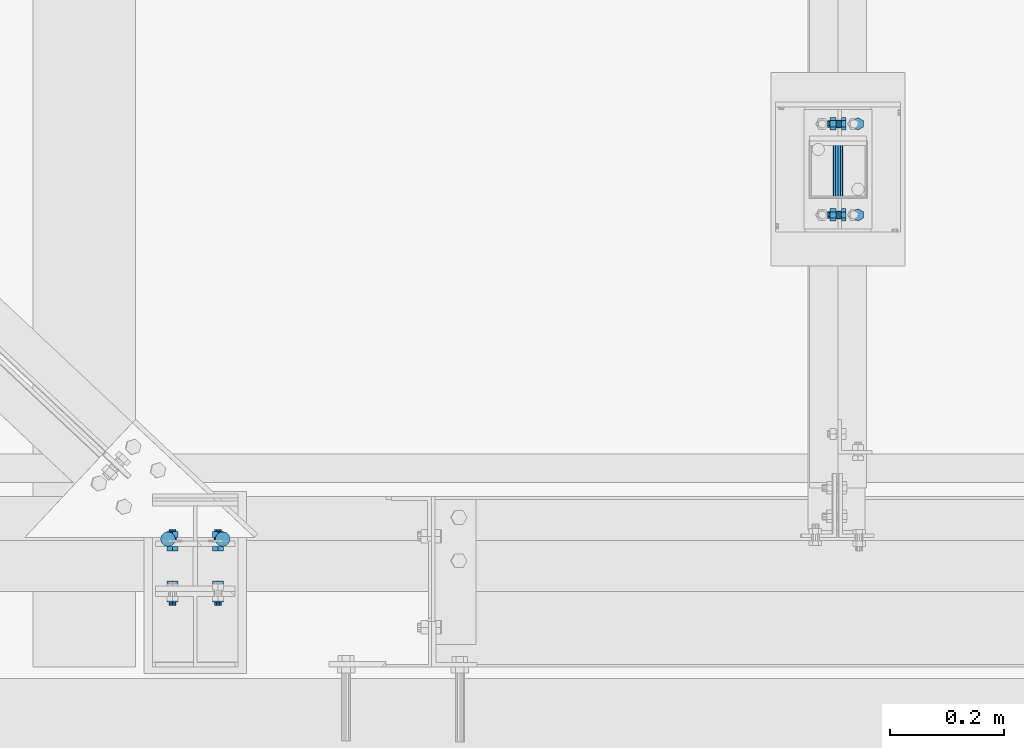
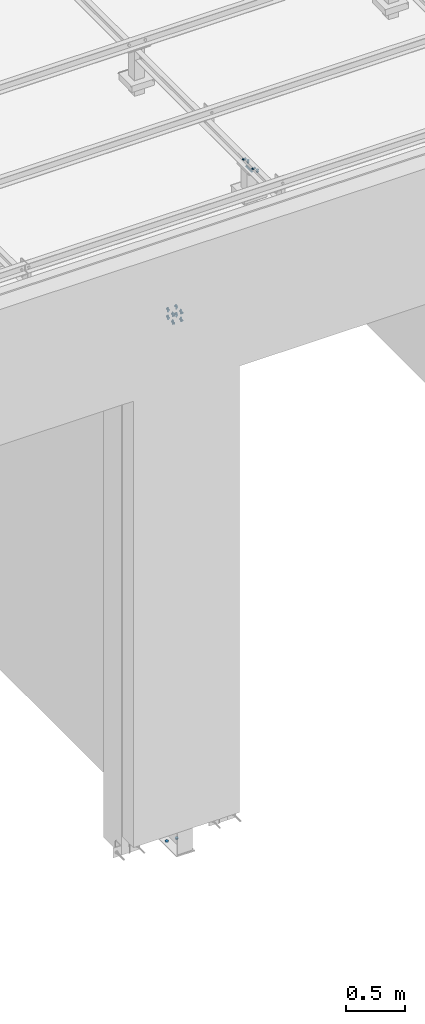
# One storey, part 310 of 3134: 6 mechanical fasteners, 5 elements without a shape of their own.
"""IFC2X3 building model written with IfcOpenShell, lengths in millimetres."""

from ifc_helpers import new_model, si_unit, frame, origin_with_axes, place, context, subcontext, project, spatial, faceted_brep, source, transform, mapped, material, type_object, element, aggregate, save


model = new_model("IFC2X3")

# Units and contexts
model_context = context("Model", 3, precision=1e-05, world=origin_with_axes())
body_context = subcontext(model_context, "Body", "Model", "MODEL_VIEW")
ifc_project = project(units=[si_unit("LENGTHUNIT", "METRE", prefix="MILLI"), si_unit("AREAUNIT", "SQUARE_METRE"), si_unit("VOLUMEUNIT", "CUBIC_METRE"), si_unit("MASSUNIT", "GRAM", prefix="KILO"), si_unit("TIMEUNIT", "SECOND"), si_unit("PLANEANGLEUNIT", "RADIAN"), si_unit("SOLIDANGLEUNIT", "STERADIAN"), si_unit("THERMODYNAMICTEMPERATUREUNIT", "DEGREE_CELSIUS"), si_unit("LUMINOUSINTENSITYUNIT", "LUMEN")], contexts=[model_context])

# Site, building, storey
site_placement = place(None, origin_with_axes())
site = spatial("IfcSite", under=ifc_project, at=site_placement, CompositionType="ELEMENT")
building_placement = place(site_placement, origin_with_axes())
building = spatial("IfcBuilding", under=site, at=building_placement, Name="Undefined", CompositionType="ELEMENT")
storey_placement = place(building_placement, origin_with_axes())
storey = spatial("IfcBuildingStorey", under=building, at=storey_placement, Name="Undefined", CompositionType="ELEMENT", Elevation=0.0)

# Assembly, mechanical fastener
assembly_1_placement = place(storey_placement, origin_with_axes())
assembly_1 = element("IfcElementAssembly", 1, at=assembly_1_placement, inside=storey, AssemblyPlace="NOTDEFINED", PredefinedType="RIGID_FRAME")
ifc_material = material(Name="8.8")
mechanical_fastener_type = type_object("IfcMechanicalFastenerType", Name="Bolt assembly")
shared_shape_1 = source(origin_with_axes(), body_context, "Body", "Brep", [
    faceted_brep([(10.9696551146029, -14.0, 0.0), (5.48482755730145, -14.0, 9.5), (-5.48482755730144, -14.0, 9.5), (-10.9696551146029, -14.0, 1.34339530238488e-15), (-5.48482755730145, -14.0, -9.5), (5.48482755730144, -14.0, -9.50000000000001), (5.48482755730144, -6.0, -9.50000000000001), (-5.48482755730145, -6.0, -9.5), (-10.9696551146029, -6.0, 1.34339530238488e-15), (-5.48482755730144, -6.0, 9.5), (5.48482755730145, -6.0, 9.5), (10.9696551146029, -6.0, 0.0), (6.0, -6.0, 0.0), (5.19615242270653, -6.0, 3.00000000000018), (2.99999999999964, -6.0, 5.19615242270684), (-6.21801588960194e-13, -6.0, 6.0), (-3.00000000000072, -6.0, 5.19615242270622), (-5.19615242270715, -6.0, 2.9999999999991), (-6.0, -6.0, -1.24360317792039e-12), (-5.19615242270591, -6.0, -3.00000000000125), (-2.99999999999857, -6.0, -5.19615242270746), (1.85874342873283e-12, -6.0, -6.0), (3.00000000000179, -6.0, -5.1961524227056), (5.19615242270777, -6.0, -2.99999999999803), (5.19615242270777, 24.0, -2.99999999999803), (3.00000000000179, 24.0, -5.1961524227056), (1.85874342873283e-12, 24.0, -6.0), (-2.99999999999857, 24.0, -5.19615242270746), (-5.19615242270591, 24.0, -3.00000000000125), (-6.0, 24.0, -1.24360317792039e-12), (-5.19615242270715, 24.0, 2.9999999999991), (-3.00000000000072, 24.0, 5.19615242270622), (-6.21801588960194e-13, 24.0, 6.0), (2.99999999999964, 24.0, 5.19615242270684), (5.19615242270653, 24.0, 3.00000000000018), (6.0, 24.0, 0.0), (10.9696551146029, 6.00000000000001, 0.0), (5.48482755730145, 6.00000000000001, 9.5), (-5.48482755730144, 6.00000000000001, 9.5), (-10.9696551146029, 6.00000000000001, 1.34339530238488e-15), (-5.48482755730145, 6.00000000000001, -9.5), (5.48482755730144, 6.00000000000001, -9.50000000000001), (5.48482755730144, 16.0, -9.50000000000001), (-5.48482755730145, 16.0, -9.5), (-10.9696551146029, 16.0, 1.34339530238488e-15), (-5.48482755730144, 16.0, 9.5), (5.48482755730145, 16.0, 9.5), (10.9696551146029, 16.0, 0.0)], [[[0, 1, 2, 3, 4, 5]], [[6, 7, 8, 9, 10, 11]], [[0, 11, 10, 1]], [[1, 10, 9, 2]], [[2, 9, 8, 3]], [[3, 8, 7, 4]], [[4, 7, 6, 5]], [[5, 6, 11, 0]], [[12, 13, 14, 15, 16, 17, 18, 19, 20, 21, 22, 23]], [[24, 25, 26, 27, 28, 29, 30, 31, 32, 33, 34, 35]], [[12, 35, 34, 13]], [[13, 34, 33, 14]], [[14, 33, 32, 15]], [[15, 32, 31, 16]], [[16, 31, 30, 17]], [[17, 30, 29, 18]], [[18, 29, 28, 19]], [[19, 28, 27, 20]], [[20, 27, 26, 21]], [[21, 26, 25, 22]], [[22, 25, 24, 23]], [[23, 24, 35, 12]], [[36, 37, 38, 39, 40, 41]], [[42, 43, 44, 45, 46, 47]], [[36, 47, 46, 37]], [[37, 46, 45, 38]], [[38, 45, 44, 39]], [[39, 44, 43, 40]], [[40, 43, 42, 41]], [[41, 42, 47, 36]]]),
    faceted_brep([(7.0, -5.9, 0.0), (6.06217782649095, -5.9, 3.50000000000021), (3.49999999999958, -5.9, 6.06217782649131), (-7.25435187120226e-13, -5.9, 7.0), (-3.50000000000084, -5.9, 6.06217782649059), (-6.06217782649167, -5.9, 3.49999999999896), (-7.0, -5.9, -1.45087037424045e-12), (-6.06217782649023, -5.9, -3.50000000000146), (-3.49999999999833, -5.9, -6.06217782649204), (2.1685340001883e-12, -5.9, -7.0), (3.50000000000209, -5.9, -6.06217782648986), (6.0621778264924, -5.9, -3.4999999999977), (6.0621778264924, 0.0999999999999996, -3.4999999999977), (3.50000000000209, 0.0999999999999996, -6.06217782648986), (2.1685340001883e-12, 0.0999999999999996, -7.0), (-3.49999999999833, 0.0999999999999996, -6.06217782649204), (-6.06217782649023, 0.0999999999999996, -3.50000000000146), (-7.0, 0.0999999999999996, -1.45087037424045e-12), (-6.06217782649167, 0.0999999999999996, 3.49999999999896), (-3.50000000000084, 0.0999999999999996, 6.06217782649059), (-7.25435187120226e-13, 0.0999999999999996, 7.0), (3.49999999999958, 0.0999999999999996, 6.06217782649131), (6.06217782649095, 0.0999999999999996, 3.50000000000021), (7.0, 0.0999999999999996, 0.0), (7.0, -0.1, 0.0), (6.06217782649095, -0.1, 3.50000000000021), (3.49999999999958, -0.1, 6.06217782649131), (-7.25435187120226e-13, -0.1, 7.0), (-3.50000000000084, -0.1, 6.06217782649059), (-6.06217782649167, -0.1, 3.49999999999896), (-7.0, -0.1, -1.45087037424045e-12), (-6.06217782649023, -0.1, -3.50000000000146), (-3.49999999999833, -0.1, -6.06217782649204), (2.1685340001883e-12, -0.1, -7.0), (3.50000000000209, -0.1, -6.06217782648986), (6.0621778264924, -0.1, -3.4999999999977), (6.0621778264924, 6.00000000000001, -3.4999999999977), (3.50000000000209, 6.00000000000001, -6.06217782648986), (2.1685340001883e-12, 6.00000000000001, -7.0), (-3.49999999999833, 6.00000000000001, -6.06217782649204), (-6.06217782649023, 6.00000000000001, -3.50000000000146), (-7.0, 6.00000000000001, -1.45087037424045e-12), (-6.06217782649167, 6.00000000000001, 3.49999999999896), (-3.50000000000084, 6.00000000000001, 6.06217782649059), (-7.25435187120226e-13, 6.00000000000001, 7.0), (3.49999999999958, 6.00000000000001, 6.06217782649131), (6.06217782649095, 6.00000000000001, 3.50000000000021), (7.0, 6.00000000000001, 0.0)], [[[0, 1, 2, 3, 4, 5, 6, 7, 8, 9, 10, 11]], [[12, 13, 14, 15, 16, 17, 18, 19, 20, 21, 22, 23]], [[0, 23, 22, 1]], [[1, 22, 21, 2]], [[2, 21, 20, 3]], [[3, 20, 19, 4]], [[4, 19, 18, 5]], [[5, 18, 17, 6]], [[6, 17, 16, 7]], [[7, 16, 15, 8]], [[8, 15, 14, 9]], [[9, 14, 13, 10]], [[10, 13, 12, 11]], [[11, 12, 23, 0]], [[24, 25, 26, 27, 28, 29, 30, 31, 32, 33, 34, 35]], [[36, 37, 38, 39, 40, 41, 42, 43, 44, 45, 46, 47]], [[24, 47, 46, 25]], [[25, 46, 45, 26]], [[26, 45, 44, 27]], [[27, 44, 43, 28]], [[28, 43, 42, 29]], [[29, 42, 41, 30]], [[30, 41, 40, 31]], [[31, 40, 39, 32]], [[32, 39, 38, 33]], [[33, 38, 37, 34]], [[34, 37, 36, 35]], [[35, 36, 47, 24]]]),
])
mechanical_fastener_1_placement = place(assembly_1_placement, frame((75585.0, 570.0, 5750.0), z_axis=(-1.0, 0.0, 0.0), x_axis=(0.0, 1.0, 0.0)))
mechanical_fastener_1 = element("IfcMechanicalFastener", 2, at=mechanical_fastener_1_placement, type_object=mechanical_fastener_type, material=ifc_material, Name="Bolt assembly", NominalDiameter=12.0, NominalLength=30.0, context=body_context, shape_type="MappedRepresentation", body=[
    mapped(shared_shape_1, transform((0.0, 0.0, 0.0))),
    mapped(shared_shape_1, transform((160.0, 0.0, 0.0))),
])

assembly_2_placement = place(storey_placement, origin_with_axes())
assembly_2 = element("IfcElementAssembly", 3, at=assembly_2_placement, inside=storey, AssemblyPlace="NOTDEFINED", PredefinedType="RIGID_FRAME")
shared_shape_2 = source(origin_with_axes(), body_context, "Body", "Brep", [
    faceted_brep([(10.9696551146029, -14.0, 0.0), (5.48482755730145, -14.0, 9.5), (-5.48482755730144, -14.0, 9.5), (-10.9696551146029, -14.0, 1.34339530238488e-15), (-5.48482755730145, -14.0, -9.5), (5.48482755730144, -14.0, -9.50000000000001), (5.48482755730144, -6.0, -9.50000000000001), (-5.48482755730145, -6.0, -9.5), (-10.9696551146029, -6.0, 1.34339530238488e-15), (-5.48482755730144, -6.0, 9.5), (5.48482755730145, -6.0, 9.5), (10.9696551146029, -6.0, 0.0), (6.0, -6.0, 0.0), (5.19615242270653, -6.0, 3.00000000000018), (2.99999999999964, -6.0, 5.19615242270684), (-6.21801588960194e-13, -6.0, 6.0), (-3.00000000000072, -6.0, 5.19615242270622), (-5.19615242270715, -6.0, 2.9999999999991), (-6.0, -6.0, -1.24360317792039e-12), (-5.19615242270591, -6.0, -3.00000000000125), (-2.99999999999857, -6.0, -5.19615242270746), (1.85874342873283e-12, -6.0, -6.0), (3.00000000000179, -6.0, -5.1961524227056), (5.19615242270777, -6.0, -2.99999999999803), (5.19615242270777, 19.0, -2.99999999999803), (3.00000000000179, 19.0, -5.1961524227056), (1.85874342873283e-12, 19.0, -6.0), (-2.99999999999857, 19.0, -5.19615242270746), (-5.19615242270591, 19.0, -3.00000000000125), (-6.0, 19.0, -1.24360317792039e-12), (-5.19615242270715, 19.0, 2.9999999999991), (-3.00000000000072, 19.0, 5.19615242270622), (-6.21801588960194e-13, 19.0, 6.0), (2.99999999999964, 19.0, 5.19615242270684), (5.19615242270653, 19.0, 3.00000000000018), (6.0, 19.0, 0.0), (10.9696551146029, 4.00000000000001, 0.0), (5.48482755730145, 4.00000000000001, 9.5), (-5.48482755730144, 4.00000000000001, 9.5), (-10.9696551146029, 4.00000000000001, 1.34339530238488e-15), (-5.48482755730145, 4.00000000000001, -9.5), (5.48482755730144, 4.00000000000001, -9.50000000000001), (5.48482755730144, 14.0, -9.50000000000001), (-5.48482755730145, 14.0, -9.5), (-10.9696551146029, 14.0, 1.34339530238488e-15), (-5.48482755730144, 14.0, 9.5), (5.48482755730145, 14.0, 9.5), (10.9696551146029, 14.0, 0.0)], [[[0, 1, 2, 3, 4, 5]], [[6, 7, 8, 9, 10, 11]], [[0, 11, 10, 1]], [[1, 10, 9, 2]], [[2, 9, 8, 3]], [[3, 8, 7, 4]], [[4, 7, 6, 5]], [[5, 6, 11, 0]], [[12, 13, 14, 15, 16, 17, 18, 19, 20, 21, 22, 23]], [[24, 25, 26, 27, 28, 29, 30, 31, 32, 33, 34, 35]], [[12, 35, 34, 13]], [[13, 34, 33, 14]], [[14, 33, 32, 15]], [[15, 32, 31, 16]], [[16, 31, 30, 17]], [[17, 30, 29, 18]], [[18, 29, 28, 19]], [[19, 28, 27, 20]], [[20, 27, 26, 21]], [[21, 26, 25, 22]], [[22, 25, 24, 23]], [[23, 24, 35, 12]], [[36, 37, 38, 39, 40, 41]], [[42, 43, 44, 45, 46, 47]], [[36, 47, 46, 37]], [[37, 46, 45, 38]], [[38, 45, 44, 39]], [[39, 44, 43, 40]], [[40, 43, 42, 41]], [[41, 42, 47, 36]]]),
    faceted_brep([(7.0, -0.1, 0.0), (6.06217782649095, -0.1, 3.50000000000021), (3.49999999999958, -0.1, 6.06217782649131), (-7.25435187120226e-13, -0.1, 7.0), (-3.50000000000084, -0.1, 6.06217782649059), (-6.06217782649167, -0.1, 3.49999999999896), (-7.0, -0.1, -1.45087037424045e-12), (-6.06217782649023, -0.1, -3.50000000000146), (-3.49999999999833, -0.1, -6.06217782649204), (2.1685340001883e-12, -0.1, -7.0), (3.50000000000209, -0.1, -6.06217782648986), (6.0621778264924, -0.1, -3.4999999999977), (6.0621778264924, 4.00000000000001, -3.4999999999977), (3.50000000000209, 4.00000000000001, -6.06217782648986), (2.1685340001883e-12, 4.00000000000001, -7.0), (-3.49999999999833, 4.00000000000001, -6.06217782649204), (-6.06217782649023, 4.00000000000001, -3.50000000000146), (-7.0, 4.00000000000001, -1.45087037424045e-12), (-6.06217782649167, 4.00000000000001, 3.49999999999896), (-3.50000000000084, 4.00000000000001, 6.06217782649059), (-7.25435187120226e-13, 4.00000000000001, 7.0), (3.49999999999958, 4.00000000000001, 6.06217782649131), (6.06217782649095, 4.00000000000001, 3.50000000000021), (7.0, 4.00000000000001, 0.0), (7.0, -5.9, 0.0), (6.06217782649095, -5.9, 3.50000000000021), (3.49999999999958, -5.9, 6.06217782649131), (-7.25435187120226e-13, -5.9, 7.0), (-3.50000000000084, -5.9, 6.06217782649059), (-6.06217782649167, -5.9, 3.49999999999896), (-7.0, -5.9, -1.45087037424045e-12), (-6.06217782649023, -5.9, -3.50000000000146), (-3.49999999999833, -5.9, -6.06217782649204), (2.1685340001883e-12, -5.9, -7.0), (3.50000000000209, -5.9, -6.06217782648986), (6.0621778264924, -5.9, -3.4999999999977), (6.0621778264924, 0.0999999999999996, -3.4999999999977), (3.50000000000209, 0.0999999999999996, -6.06217782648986), (2.1685340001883e-12, 0.0999999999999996, -7.0), (-3.49999999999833, 0.0999999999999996, -6.06217782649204), (-6.06217782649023, 0.0999999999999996, -3.50000000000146), (-7.0, 0.0999999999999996, -1.45087037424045e-12), (-6.06217782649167, 0.0999999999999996, 3.49999999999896), (-3.50000000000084, 0.0999999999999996, 6.06217782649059), (-7.25435187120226e-13, 0.0999999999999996, 7.0), (3.49999999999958, 0.0999999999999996, 6.06217782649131), (6.06217782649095, 0.0999999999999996, 3.50000000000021), (7.0, 0.0999999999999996, 0.0)], [[[0, 1, 2, 3, 4, 5, 6, 7, 8, 9, 10, 11]], [[12, 13, 14, 15, 16, 17, 18, 19, 20, 21, 22, 23]], [[0, 23, 22, 1]], [[1, 22, 21, 2]], [[2, 21, 20, 3]], [[3, 20, 19, 4]], [[4, 19, 18, 5]], [[5, 18, 17, 6]], [[6, 17, 16, 7]], [[7, 16, 15, 8]], [[8, 15, 14, 9]], [[9, 14, 13, 10]], [[10, 13, 12, 11]], [[11, 12, 23, 0]], [[24, 25, 26, 27, 28, 29, 30, 31, 32, 33, 34, 35]], [[36, 37, 38, 39, 40, 41, 42, 43, 44, 45, 46, 47]], [[24, 47, 46, 25]], [[25, 46, 45, 26]], [[26, 45, 44, 27]], [[27, 44, 43, 28]], [[28, 43, 42, 29]], [[29, 42, 41, 30]], [[30, 41, 40, 31]], [[31, 40, 39, 32]], [[32, 39, 38, 33]], [[33, 38, 37, 34]], [[34, 37, 36, 35]], [[35, 36, 47, 24]]]),
])
mechanical_fastener_2_placement = place(assembly_2_placement, frame((75550.0, 570.0, 5785.0), z_axis=(0.0, 0.0, 1.0), x_axis=(0.0, 1.0, 0.0)))
mechanical_fastener_2 = element("IfcMechanicalFastener", 4, at=mechanical_fastener_2_placement, type_object=mechanical_fastener_type, material=ifc_material, Name="Bolt assembly", NominalDiameter=12.0, NominalLength=25.0, context=body_context, shape_type="MappedRepresentation", body=[
    mapped(shared_shape_2, transform((0.0, 0.0, 0.0))),
    mapped(shared_shape_2, transform((160.0, 0.0, 0.0))),
])
aggregate(assembly_2, [mechanical_fastener_2])

assembly_3_placement = place(storey_placement, origin_with_axes())
assembly_3 = element("IfcElementAssembly", 5, at=assembly_3_placement, inside=storey, Name="300", AssemblyPlace="NOTDEFINED", PredefinedType="RIGID_FRAME")
shared_shape_3 = source(origin_with_axes(), body_context, "Body", "Brep", [
    faceted_brep([(10.9696551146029, -21.0500000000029, 0.0), (5.48482755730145, -21.0500000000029, 9.5), (-5.48482755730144, -21.0500000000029, 9.5), (-10.9696551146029, -21.0500000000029, 1.34339530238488e-15), (-5.48482755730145, -21.0500000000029, -9.5), (5.48482755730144, -21.0500000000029, -9.50000000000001), (5.48482755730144, -13.0500000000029, -9.50000000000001), (-5.48482755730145, -13.0500000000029, -9.5), (-10.9696551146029, -13.0500000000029, 1.34339530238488e-15), (-5.48482755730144, -13.0500000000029, 9.5), (5.48482755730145, -13.0500000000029, 9.5), (10.9696551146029, -13.0500000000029, 0.0), (6.0, -13.0500000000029, 0.0), (5.19615242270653, -13.0500000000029, 3.00000000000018), (2.99999999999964, -13.0500000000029, 5.19615242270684), (-6.21801588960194e-13, -13.0500000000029, 6.0), (-3.00000000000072, -13.0500000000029, 5.19615242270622), (-5.19615242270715, -13.0500000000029, 2.9999999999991), (-6.0, -13.0500000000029, -1.24360317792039e-12), (-5.19615242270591, -13.0500000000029, -3.00000000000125), (-2.99999999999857, -13.0500000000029, -5.19615242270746), (1.85874342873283e-12, -13.0500000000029, -6.0), (3.00000000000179, -13.0500000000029, -5.1961524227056), (5.19615242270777, -13.0500000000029, -2.99999999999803), (5.19615242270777, 16.9499999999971, -2.99999999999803), (3.00000000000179, 16.9499999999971, -5.1961524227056), (1.85874342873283e-12, 16.9499999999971, -6.0), (-2.99999999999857, 16.9499999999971, -5.19615242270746), (-5.19615242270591, 16.9499999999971, -3.00000000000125), (-6.0, 16.9499999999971, -1.24360317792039e-12), (-5.19615242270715, 16.9499999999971, 2.9999999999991), (-3.00000000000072, 16.9499999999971, 5.19615242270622), (-6.21801588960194e-13, 16.9499999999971, 6.0), (2.99999999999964, 16.9499999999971, 5.19615242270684), (5.19615242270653, 16.9499999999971, 3.00000000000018), (6.0, 16.9499999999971, 0.0), (10.9696551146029, 3.04999995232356, 0.0), (5.48482755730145, 3.04999995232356, 9.5), (-5.48482755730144, 3.04999995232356, 9.5), (-10.9696551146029, 3.04999995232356, 1.34339530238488e-15), (-5.48482755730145, 3.04999995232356, -9.5), (5.48482755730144, 3.04999995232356, -9.50000000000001), (5.48482755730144, 13.0499999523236, -9.50000000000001), (-5.48482755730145, 13.0499999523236, -9.5), (-10.9696551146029, 13.0499999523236, 1.34339530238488e-15), (-5.48482755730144, 13.0499999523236, 9.5), (5.48482755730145, 13.0499999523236, 9.5), (10.9696551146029, 13.0499999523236, 0.0)], [[[0, 1, 2, 3, 4, 5]], [[6, 7, 8, 9, 10, 11]], [[0, 11, 10, 1]], [[1, 10, 9, 2]], [[2, 9, 8, 3]], [[3, 8, 7, 4]], [[4, 7, 6, 5]], [[5, 6, 11, 0]], [[12, 13, 14, 15, 16, 17, 18, 19, 20, 21, 22, 23]], [[24, 25, 26, 27, 28, 29, 30, 31, 32, 33, 34, 35]], [[12, 35, 34, 13]], [[13, 34, 33, 14]], [[14, 33, 32, 15]], [[15, 32, 31, 16]], [[16, 31, 30, 17]], [[17, 30, 29, 18]], [[18, 29, 28, 19]], [[19, 28, 27, 20]], [[20, 27, 26, 21]], [[21, 26, 25, 22]], [[22, 25, 24, 23]], [[23, 24, 35, 12]], [[36, 37, 38, 39, 40, 41]], [[42, 43, 44, 45, 46, 47]], [[36, 47, 46, 37]], [[37, 46, 45, 38]], [[38, 45, 44, 39]], [[39, 44, 43, 40]], [[40, 43, 42, 41]], [[41, 42, 47, 36]]]),
    faceted_brep([(26.0, -12.9500000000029, 0.0), (25.4671567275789, -12.9500000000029, 2.6787840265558), (23.9497474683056, -12.9500000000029, 4.94974746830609), (21.6787840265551, -12.9500000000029, 6.46715672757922), (-19.0000000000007, -12.9500000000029, 7.0), (-22.5000000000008, -12.9500000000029, 6.06217782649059), (-25.0621778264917, -12.9500000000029, 3.49999999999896), (-26.0, -12.9500000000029, -1.45087037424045e-12), (-25.0621778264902, -12.9500000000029, -3.50000000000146), (-22.4999999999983, -12.9500000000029, -6.06217782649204), (-18.9999999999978, -12.9500000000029, -7.0), (19.0000000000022, -12.9500000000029, -7.0), (22.5000000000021, -12.9500000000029, -6.06217782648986), (25.0621778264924, -12.9500000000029, -3.4999999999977), (26.0, -2.95000000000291, 0.0), (25.0621778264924, -2.95000000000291, -3.4999999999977), (22.5000000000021, -2.95000000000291, -6.06217782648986), (19.0000000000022, -2.95000000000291, -7.0), (-18.9999999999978, -2.95000000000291, -7.0), (-22.4999999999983, -2.95000000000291, -6.06217782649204), (-25.0621778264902, -2.95000000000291, -3.50000000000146), (-26.0, -2.95000000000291, -1.45087037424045e-12), (-25.0621778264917, -2.95000000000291, 3.49999999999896), (-22.5000000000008, -2.95000000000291, 6.06217782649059), (-19.0000000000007, -2.95000000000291, 7.0), (21.6787840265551, -2.95000000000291, 6.46715672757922), (23.9497474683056, -2.95000000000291, 4.94974746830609), (25.4671567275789, -2.95000000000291, 2.6787840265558), (7.0, -3.14999995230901, 0.0), (6.06217782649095, -3.14999995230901, 3.50000000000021), (3.49999999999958, -3.14999995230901, 6.06217782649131), (-7.25435187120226e-13, -3.14999995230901, 7.0), (-3.50000000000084, -3.14999995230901, 6.06217782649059), (-6.06217782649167, -3.14999995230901, 3.49999999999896), (-7.0, -3.14999995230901, -1.45087037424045e-12), (-6.06217782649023, -3.14999995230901, -3.50000000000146), (-3.49999999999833, -3.14999995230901, -6.06217782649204), (2.1685340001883e-12, -3.14999995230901, -7.0), (3.50000000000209, -3.14999995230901, -6.06217782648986), (6.0621778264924, -3.14999995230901, -3.4999999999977), (6.0621778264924, 3.04999995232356, -3.4999999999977), (3.50000000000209, 3.04999995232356, -6.06217782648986), (2.1685340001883e-12, 3.04999995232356, -7.0), (-3.49999999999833, 3.04999995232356, -6.06217782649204), (-6.06217782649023, 3.04999995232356, -3.50000000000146), (-7.0, 3.04999995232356, -1.45087037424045e-12), (-6.06217782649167, 3.04999995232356, 3.49999999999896), (-3.50000000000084, 3.04999995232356, 6.06217782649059), (-7.25435187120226e-13, 3.04999995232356, 7.0), (3.49999999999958, 3.04999995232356, 6.06217782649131), (6.06217782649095, 3.04999995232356, 3.50000000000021), (7.0, 3.04999995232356, 0.0)], [[[0, 1, 2, 3, 4, 5, 6, 7, 8, 9, 10, 11, 12, 13]], [[14, 15, 16, 17, 18, 19, 20, 21, 22, 23, 24, 25, 26, 27]], [[0, 14, 27, 1]], [[1, 27, 26, 2]], [[2, 26, 25, 3]], [[3, 25, 24, 4]], [[4, 24, 23, 5]], [[5, 23, 22, 6]], [[6, 22, 21, 7]], [[7, 21, 20, 8]], [[8, 20, 19, 9]], [[9, 19, 18, 10]], [[10, 18, 17, 11]], [[11, 17, 16, 12]], [[12, 16, 15, 13]], [[13, 15, 14, 0]], [[28, 29, 30, 31, 32, 33, 34, 35, 36, 37, 38, 39]], [[40, 41, 42, 43, 44, 45, 46, 47, 48, 49, 50, 51]], [[28, 51, 50, 29]], [[29, 50, 49, 30]], [[30, 49, 48, 31]], [[31, 48, 47, 32]], [[32, 47, 46, 33]], [[33, 46, 45, 34]], [[34, 45, 44, 35]], [[35, 44, 43, 36]], [[36, 43, 42, 37]], [[37, 42, 41, 38]], [[38, 41, 40, 39]], [[39, 40, 51, 28]]]),
])
mechanical_fastener_3_placement = place(assembly_3_placement, frame((74419.9999999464, 0.0, 5088.45642111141), z_axis=(1.0, 0.0, 0.0), x_axis=(0.0, 0.0, -1.0)))
mechanical_fastener_3 = element("IfcMechanicalFastener", 6, at=mechanical_fastener_3_placement, type_object=mechanical_fastener_type, material=ifc_material, Name="Bolt assembly", NominalDiameter=12.0, NominalLength=30.0, context=body_context, shape_type="MappedRepresentation", body=[
    mapped(shared_shape_3, transform((0.0, 0.0, -40.0))),
    mapped(shared_shape_3, transform((80.0, 0.0, -40.0))),
    mapped(shared_shape_3, transform((0.0, 0.0, 40.0))),
    mapped(shared_shape_3, transform((80.0, 0.0, 40.0))),
])
aggregate(assembly_3, [mechanical_fastener_3])

assembly_4_placement = place(storey_placement, origin_with_axes())
assembly_4 = element("IfcElementAssembly", 7, at=assembly_4_placement, inside=storey, AssemblyPlace="NOTDEFINED", PredefinedType="RIGID_FRAME")
shared_shape_4 = source(origin_with_axes(), body_context, "Body", "Brep", [
    faceted_brep([(10.9696551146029, -18.0, 0.0), (5.48482755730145, -18.0, 9.5), (-5.48482755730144, -18.0, 9.5), (-10.9696551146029, -18.0, 1.34339530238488e-15), (-5.48482755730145, -18.0, -9.5), (5.48482755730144, -18.0, -9.50000000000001), (5.48482755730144, -10.0, -9.50000000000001), (-5.48482755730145, -10.0, -9.5), (-10.9696551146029, -10.0, 1.34339530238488e-15), (-5.48482755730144, -10.0, 9.5), (5.48482755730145, -10.0, 9.5), (10.9696551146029, -10.0, 0.0), (6.0, -10.0, 0.0), (5.19615242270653, -10.0, 3.00000000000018), (2.99999999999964, -10.0, 5.19615242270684), (-6.21801588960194e-13, -10.0, 6.0), (-3.00000000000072, -10.0, 5.19615242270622), (-5.19615242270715, -10.0, 2.9999999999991), (-6.0, -10.0, -1.24360317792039e-12), (-5.19615242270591, -10.0, -3.00000000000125), (-2.99999999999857, -10.0, -5.19615242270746), (1.85874342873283e-12, -10.0, -6.0), (3.00000000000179, -10.0, -5.1961524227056), (5.19615242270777, -10.0, -2.99999999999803), (5.19615242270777, 24.9999999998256, -2.99999999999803), (3.00000000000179, 24.9999999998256, -5.1961524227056), (1.85874342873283e-12, 24.9999999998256, -6.0), (-2.99999999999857, 24.9999999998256, -5.19615242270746), (-5.19615242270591, 24.9999999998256, -3.00000000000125), (-6.0, 24.9999999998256, -1.24360317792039e-12), (-5.19615242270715, 24.9999999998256, 2.9999999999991), (-3.00000000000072, 24.9999999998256, 5.19615242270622), (-6.21801588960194e-13, 24.9999999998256, 6.0), (2.99999999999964, 24.9999999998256, 5.19615242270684), (5.19615242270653, 24.9999999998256, 3.00000000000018), (6.0, 24.9999999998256, 0.0), (10.9696551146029, 8.5, 0.0), (5.48482755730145, 8.5, 9.5), (-5.48482755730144, 8.5, 9.5), (-10.9696551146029, 8.5, 1.34339530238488e-15), (-5.48482755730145, 8.5, -9.5), (5.48482755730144, 8.5, -9.50000000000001), (5.48482755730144, 18.5, -9.50000000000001), (-5.48482755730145, 18.5, -9.5), (-10.9696551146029, 18.5, 1.34339530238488e-15), (-5.48482755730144, 18.5, 9.5), (5.48482755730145, 18.5, 9.5), (10.9696551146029, 18.5, 0.0)], [[[0, 1, 2, 3, 4, 5]], [[6, 7, 8, 9, 10, 11]], [[0, 11, 10, 1]], [[1, 10, 9, 2]], [[2, 9, 8, 3]], [[3, 8, 7, 4]], [[4, 7, 6, 5]], [[5, 6, 11, 0]], [[12, 13, 14, 15, 16, 17, 18, 19, 20, 21, 22, 23]], [[24, 25, 26, 27, 28, 29, 30, 31, 32, 33, 34, 35]], [[12, 35, 34, 13]], [[13, 34, 33, 14]], [[14, 33, 32, 15]], [[15, 32, 31, 16]], [[16, 31, 30, 17]], [[17, 30, 29, 18]], [[18, 29, 28, 19]], [[19, 28, 27, 20]], [[20, 27, 26, 21]], [[21, 26, 25, 22]], [[22, 25, 24, 23]], [[23, 24, 35, 12]], [[36, 37, 38, 39, 40, 41]], [[42, 43, 44, 45, 46, 47]], [[36, 47, 46, 37]], [[37, 46, 45, 38]], [[38, 45, 44, 39]], [[39, 44, 43, 40]], [[40, 43, 42, 41]], [[41, 42, 47, 36]]]),
    faceted_brep([(7.0, -0.1, 0.0), (6.06217782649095, -0.1, 3.50000000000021), (3.49999999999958, -0.1, 6.06217782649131), (-7.25435187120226e-13, -0.1, 7.0), (-3.50000000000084, -0.1, 6.06217782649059), (-6.06217782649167, -0.1, 3.49999999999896), (-7.0, -0.1, -1.45087037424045e-12), (-6.06217782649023, -0.1, -3.50000000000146), (-3.49999999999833, -0.1, -6.06217782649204), (2.1685340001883e-12, -0.1, -7.0), (3.50000000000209, -0.1, -6.06217782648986), (6.0621778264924, -0.1, -3.4999999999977), (6.0621778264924, 8.5, -3.4999999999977), (3.50000000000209, 8.5, -6.06217782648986), (2.1685340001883e-12, 8.5, -7.0), (-3.49999999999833, 8.5, -6.06217782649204), (-6.06217782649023, 8.5, -3.50000000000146), (-7.0, 8.5, -1.45087037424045e-12), (-6.06217782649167, 8.5, 3.49999999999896), (-3.50000000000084, 8.5, 6.06217782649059), (-7.25435187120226e-13, 8.5, 7.0), (3.49999999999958, 8.5, 6.06217782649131), (6.06217782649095, 8.5, 3.50000000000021), (7.0, 8.5, 0.0), (26.0, -9.9, 0.0), (25.4671567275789, -9.9, 2.6787840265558), (23.9497474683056, -9.9, 4.94974746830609), (21.6787840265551, -9.9, 6.46715672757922), (-19.0000000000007, -9.9, 7.0), (-22.5000000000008, -9.9, 6.06217782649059), (-25.0621778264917, -9.9, 3.49999999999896), (-26.0, -9.9, -1.45087037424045e-12), (-25.0621778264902, -9.9, -3.50000000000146), (-22.4999999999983, -9.9, -6.06217782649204), (-18.9999999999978, -9.9, -7.0), (19.0000000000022, -9.9, -7.0), (22.5000000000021, -9.9, -6.06217782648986), (25.0621778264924, -9.9, -3.4999999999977), (26.0, 0.0999999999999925, 0.0), (25.0621778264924, 0.0999999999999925, -3.4999999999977), (22.5000000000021, 0.0999999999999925, -6.06217782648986), (19.0000000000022, 0.0999999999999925, -7.0), (-18.9999999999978, 0.0999999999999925, -7.0), (-22.4999999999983, 0.0999999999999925, -6.06217782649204), (-25.0621778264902, 0.0999999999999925, -3.50000000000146), (-26.0, 0.0999999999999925, -1.45087037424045e-12), (-25.0621778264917, 0.0999999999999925, 3.49999999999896), (-22.5000000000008, 0.0999999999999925, 6.06217782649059), (-19.0000000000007, 0.0999999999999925, 7.0), (21.6787840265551, 0.0999999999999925, 6.46715672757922), (23.9497474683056, 0.0999999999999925, 4.94974746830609), (25.4671567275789, 0.0999999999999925, 2.6787840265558)], [[[0, 1, 2, 3, 4, 5, 6, 7, 8, 9, 10, 11]], [[12, 13, 14, 15, 16, 17, 18, 19, 20, 21, 22, 23]], [[0, 23, 22, 1]], [[1, 22, 21, 2]], [[2, 21, 20, 3]], [[3, 20, 19, 4]], [[4, 19, 18, 5]], [[5, 18, 17, 6]], [[6, 17, 16, 7]], [[7, 16, 15, 8]], [[8, 15, 14, 9]], [[9, 14, 13, 10]], [[10, 13, 12, 11]], [[11, 12, 23, 0]], [[24, 25, 26, 27, 28, 29, 30, 31, 32, 33, 34, 35, 36, 37]], [[38, 39, 40, 41, 42, 43, 44, 45, 46, 47, 48, 49, 50, 51]], [[24, 38, 51, 25]], [[25, 51, 50, 26]], [[26, 50, 49, 27]], [[27, 49, 48, 28]], [[28, 48, 47, 29]], [[29, 47, 46, 30]], [[30, 46, 45, 31]], [[31, 45, 44, 32]], [[32, 44, 43, 33]], [[33, 43, 42, 34]], [[34, 42, 41, 35]], [[35, 41, 40, 36]], [[36, 40, 39, 37]], [[37, 39, 38, 24]]]),
])
mechanical_fastener_4_placement = place(assembly_4_placement, frame((74419.9999999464, -92.0, 5088.45642111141), z_axis=(-1.0, 0.0, 0.0), x_axis=(0.0, 0.0, -1.0)))
mechanical_fastener_4 = element("IfcMechanicalFastener", 8, at=mechanical_fastener_4_placement, type_object=mechanical_fastener_type, material=ifc_material, Name="Bolt assembly", NominalDiameter=12.0, NominalLength=35.0, context=body_context, shape_type="MappedRepresentation", body=[
    mapped(shared_shape_4, transform((0.0, 0.0, -40.0))),
    mapped(shared_shape_4, transform((80.0, 0.0, -40.0))),
    mapped(shared_shape_4, transform((0.0, 0.0, 40.0))),
    mapped(shared_shape_4, transform((80.0, 0.0, 40.0))),
])
aggregate(assembly_4, [mechanical_fastener_4])

# Mechanical fastener
shared_shape_5 = source(origin_with_axes(), body_context, "Body", "Brep", [
    faceted_brep([(9.0, -50.0, 0.0), (7.79422863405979, -50.0, 4.50000000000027), (4.49999999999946, -50.0, 7.79422863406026), (-9.3270238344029e-13, -50.0, 9.0), (-4.50000000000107, -50.0, 7.79422863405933), (-7.79422863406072, -50.0, 4.49999999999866), (-9.0, -50.0, -1.86540476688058e-12), (-7.79422863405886, -50.0, -4.50000000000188), (-4.49999999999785, -50.0, -7.79422863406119), (2.78811514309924e-12, -50.0, -9.0), (4.50000000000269, -50.0, -7.7942286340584), (7.79422863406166, -50.0, -4.49999999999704), (7.79422863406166, 50.1, -4.49999999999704), (4.50000000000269, 50.1, -7.7942286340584), (2.78811514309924e-12, 50.1, -9.0), (-4.49999999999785, 50.1, -7.79422863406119), (-7.79422863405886, 50.1, -4.50000000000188), (-9.0, 50.1, -1.86540476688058e-12), (-7.79422863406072, 50.1, 4.49999999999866), (-4.50000000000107, 50.1, 7.79422863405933), (-9.3270238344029e-13, 50.1, 9.0), (4.49999999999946, 50.1, 7.79422863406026), (7.79422863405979, 50.1, 4.50000000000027), (9.0, 50.1, 0.0)], [[[0, 1, 2, 3, 4, 5, 6, 7, 8, 9, 10, 11]], [[12, 13, 14, 15, 16, 17, 18, 19, 20, 21, 22, 23]], [[0, 23, 22, 1]], [[1, 22, 21, 2]], [[2, 21, 20, 3]], [[3, 20, 19, 4]], [[4, 19, 18, 5]], [[5, 18, 17, 6]], [[6, 17, 16, 7]], [[7, 16, 15, 8]], [[8, 15, 14, 9]], [[9, 14, 13, 10]], [[10, 13, 12, 11]], [[11, 12, 23, 0]]]),
])
mechanical_fastener_5_placement = place(assembly_1_placement, frame((75550.0, 650.0, 5730.0), z_axis=(-1.0, 0.0, 0.0), x_axis=(0.0, 0.0, 1.0)))
mechanical_fastener_5 = element("IfcMechanicalFastener", 9, at=mechanical_fastener_5_placement, type_object=mechanical_fastener_type, material=ifc_material, Name="Bolt assembly", NominalDiameter=16.0, NominalLength=100.0, context=body_context, shape_type="MappedRepresentation", body=[
    mapped(shared_shape_5, transform((0.0, 0.0, 0.0))),
])

aggregate(assembly_1, [mechanical_fastener_5, mechanical_fastener_1])

# Assembly, mechanical fastener
assembly_5_placement = place(storey_placement, origin_with_axes())
assembly_5 = element("IfcElementAssembly", 10, at=assembly_5_placement, inside=storey, Name="300", AssemblyPlace="NOTDEFINED", PredefinedType="RIGID_FRAME")
shared_shape_6 = source(origin_with_axes(), body_context, "Body", "Brep", [
    faceted_brep([(13.0, -25.000000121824, 0.0), (11.2583302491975, -25.000000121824, 6.50000000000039), (6.49999999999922, -25.000000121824, 11.2583302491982), (-1.34723677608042e-12, -25.000000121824, 13.0), (-6.50000000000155, -25.000000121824, 11.2583302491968), (-11.2583302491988, -25.000000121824, 6.49999999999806), (-13.0, -25.000000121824, -2.69447355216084e-12), (-11.2583302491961, -25.000000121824, -6.50000000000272), (-6.4999999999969, -25.000000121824, -11.2583302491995), (4.02727742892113e-12, -25.000000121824, -13.0), (6.50000000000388, -25.000000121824, -11.2583302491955), (11.2583302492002, -25.000000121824, -6.49999999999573), (11.2583302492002, -12.900000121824, -6.49999999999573), (6.50000000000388, -12.900000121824, -11.2583302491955), (4.02727742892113e-12, -12.900000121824, -13.0), (-6.4999999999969, -12.900000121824, -11.2583302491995), (-11.2583302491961, -12.900000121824, -6.50000000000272), (-13.0, -12.900000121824, -2.69447355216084e-12), (-11.2583302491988, -12.900000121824, 6.49999999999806), (-6.50000000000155, -12.900000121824, 11.2583302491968), (-1.34723677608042e-12, -12.900000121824, 13.0), (6.49999999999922, -12.900000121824, 11.2583302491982), (11.2583302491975, -12.900000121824, 6.50000000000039), (13.0, -12.900000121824, 0.0)], [[[0, 1, 2, 3, 4, 5, 6, 7, 8, 9, 10, 11]], [[12, 13, 14, 15, 16, 17, 18, 19, 20, 21, 22, 23]], [[0, 23, 22, 1]], [[1, 22, 21, 2]], [[2, 21, 20, 3]], [[3, 20, 19, 4]], [[4, 19, 18, 5]], [[5, 18, 17, 6]], [[6, 17, 16, 7]], [[7, 16, 15, 8]], [[8, 15, 14, 9]], [[9, 14, 13, 10]], [[10, 13, 12, 11]], [[11, 12, 23, 0]]]),
])
mechanical_fastener_6_placement = place(assembly_5_placement, frame((74420.0000000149, -301.499999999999, -374.999999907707), z_axis=(1.0, 0.0, 0.0), x_axis=(0.0, 1.0, 0.0)))
mechanical_fastener_6 = element("IfcMechanicalFastener", 11, at=mechanical_fastener_6_placement, type_object=mechanical_fastener_type, material=ifc_material, Name="Bolt assembly", NominalDiameter=24.0, NominalLength=12.0, context=body_context, shape_type="MappedRepresentation", body=[
    mapped(shared_shape_6, transform((301.5, 0.0, -48.0))),
    mapped(shared_shape_6, transform((301.5, 0.0, 48.0))),
])
aggregate(assembly_5, [mechanical_fastener_6])

save(model, "model.ifc")
